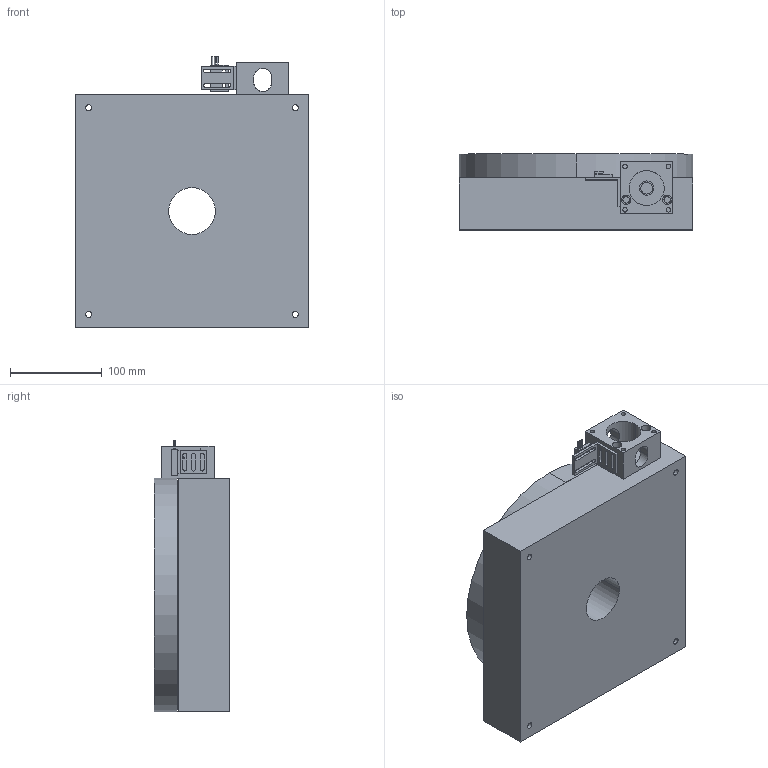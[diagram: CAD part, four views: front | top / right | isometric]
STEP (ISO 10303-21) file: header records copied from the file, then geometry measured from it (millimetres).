
FILE_DESCRIPTION((''),'2;1');
FILE_NAME('M10-ROTARY-T3_ASM','2005-02-18T',('BF20108'),(''),'PRO/ENGINEER BY PARAMETRIC TECHNOLOGY CORPORATION, 2004400','PRO/ENGINEER BY PARAMETRIC TECHNOLOGY CORPORATION, 2004400','');
FILE_SCHEMA(('CONFIG_CONTROL_DESIGN'));
Products named in the file (7): M10RO-BASE; M10RO-TOP-T3; M23-MB-01; 000-4457-SW-BRKT; 003-1145-SWITCH; ROTARY-TBL-HOME-SW_ASM; M10-ROTARY-T3_ASM
Assembly tree (6 placements, depth 3):
  M10-ROTARY-T3_ASM
    M10RO-BASE
    M10RO-TOP-T3
    M23-MB-01
    ROTARY-TBL-HOME-SW_ASM
      000-4457-SW-BRKT
      003-1145-SWITCH
Bounding box: 254 x 82.55 x 295.49 mm (x, y, z)
Volume: 4809634.5 mm3; surface area: 353339 mm2
Topology: 5 solids, 13 shells, 165 faces, 430 edges, 286 vertices
Faces by surface type: cylinder 104, plane 61
Entity records: 5528 total; most frequent: DIRECTION 994, CARTESIAN_POINT 974, ORIENTED_EDGE 828, EDGE_CURVE 430, AXIS2_PLACEMENT_3D 388, VERTEX_POINT 286, EDGE_LOOP 236, VECTOR 218
